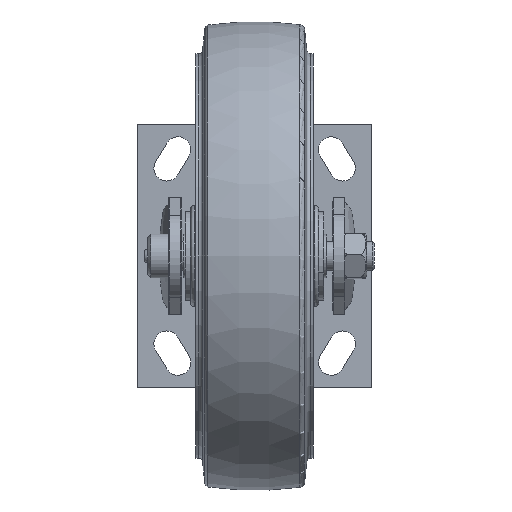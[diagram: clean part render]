
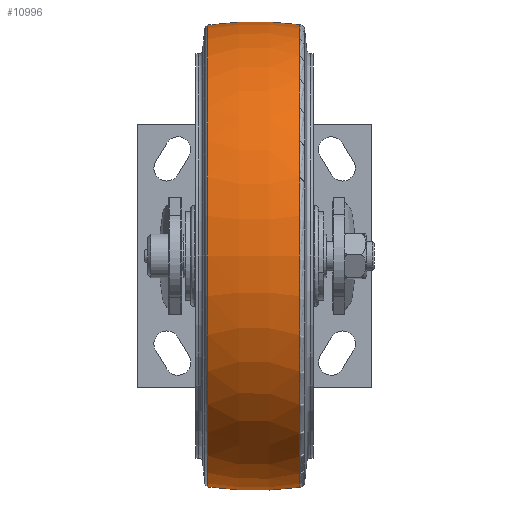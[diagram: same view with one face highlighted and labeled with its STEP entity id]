
A CAD part, front view. The second image highlights one B-rep face of the part: STEP entity #10996.
In plain terms, the highlighted toroidal (fillet/blend) face has major radius 46.041 mm and minor radius 147.642 mm.
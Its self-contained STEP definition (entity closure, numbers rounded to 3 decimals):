
#921 = AXIS2_PLACEMENT_3D ( 'NONE', #28530, #14505, #14407 ) ;
#1093 = EDGE_CURVE ( 'NONE', #24662, #3797, #29908, .T. ) ;
#1613 = CARTESIAN_POINT ( 'NONE',  ( 0.351, -139.702, 0. ) ) ;
#2524 = CARTESIAN_POINT ( 'NONE',  ( 19.598, -139.702, 0. ) ) ;
#3797 = VERTEX_POINT ( 'NONE', #22323 ) ;
#5432 = DIRECTION ( 'NONE',  ( 0., -1., 0. ) ) ;
#6719 = TOROIDAL_SURFACE ( 'NONE', #8929, -46.041, 147.642 ) ;
#8929 = AXIS2_PLACEMENT_3D ( 'NONE', #1613, #10800, #27259 ) ;
#9106 = CIRCLE ( 'NONE', #13620, 100.342 ) ;
#9765 = DIRECTION ( 'NONE',  ( -1., 0., 0. ) ) ;
#10800 = DIRECTION ( 'NONE',  ( -1., 0., 0. ) ) ;
#10996 = ADVANCED_FACE ( 'NONE', ( #20761 ), #6719, .T. ) ;
#11106 = EDGE_CURVE ( 'NONE', #28383, #24662, #21565, .T. ) ;
#11423 = DIRECTION ( 'NONE',  ( 0., 0., 1. ) ) ;
#13178 = CIRCLE ( 'NONE', #25833, 147.642 ) ;
#13620 = AXIS2_PLACEMENT_3D ( 'NONE', #2524, #9765, #28307 ) ;
#13684 = ORIENTED_EDGE ( 'NONE', *, *, #1093, .F. ) ;
#14179 = CARTESIAN_POINT ( 'NONE',  ( 19.598, -139.702, -100.342 ) ) ;
#14407 = DIRECTION ( 'NONE',  ( 0., 0., 1. ) ) ;
#14505 = DIRECTION ( 'NONE',  ( -1., 0., 0. ) ) ;
#16584 = EDGE_LOOP ( 'NONE', ( #24295, #20020, #24274, #13684 ) ) ;
#17113 = VERTEX_POINT ( 'NONE', #24179 ) ;
#19386 = CARTESIAN_POINT ( 'NONE',  ( 0.351, -139.702, -46.041 ) ) ;
#20020 = ORIENTED_EDGE ( 'NONE', *, *, #22086, .T. ) ;
#20278 = EDGE_CURVE ( 'NONE', #17113, #3797, #13178, .T. ) ;
#20469 = CARTESIAN_POINT ( 'NONE',  ( 0.351, -139.702, 46.041 ) ) ;
#20761 = FACE_OUTER_BOUND ( 'NONE', #16584, .T. ) ;
#21565 = CIRCLE ( 'NONE', #26859, 147.642 ) ;
#22086 = EDGE_CURVE ( 'NONE', #28383, #17113, #9106, .T. ) ;
#22323 = CARTESIAN_POINT ( 'NONE',  ( -20.257, -139.702, 100.156 ) ) ;
#22624 = CARTESIAN_POINT ( 'NONE',  ( -20.257, -139.702, -100.156 ) ) ;
#24134 = DIRECTION ( 'NONE',  ( 0., 0., -1. ) ) ;
#24179 = CARTESIAN_POINT ( 'NONE',  ( 19.598, -139.702, 100.342 ) ) ;
#24274 = ORIENTED_EDGE ( 'NONE', *, *, #20278, .T. ) ;
#24295 = ORIENTED_EDGE ( 'NONE', *, *, #11106, .F. ) ;
#24662 = VERTEX_POINT ( 'NONE', #22624 ) ;
#25203 = DIRECTION ( 'NONE',  ( 0., 1., 0. ) ) ;
#25833 = AXIS2_PLACEMENT_3D ( 'NONE', #19386, #5432, #24134 ) ;
#26859 = AXIS2_PLACEMENT_3D ( 'NONE', #20469, #25203, #11423 ) ;
#27259 = DIRECTION ( 'NONE',  ( 0., 0., 1. ) ) ;
#28307 = DIRECTION ( 'NONE',  ( 0., 0., 1. ) ) ;
#28383 = VERTEX_POINT ( 'NONE', #14179 ) ;
#28530 = CARTESIAN_POINT ( 'NONE',  ( -20.257, -139.702, 0. ) ) ;
#29908 = CIRCLE ( 'NONE', #921, 100.156 ) ;
